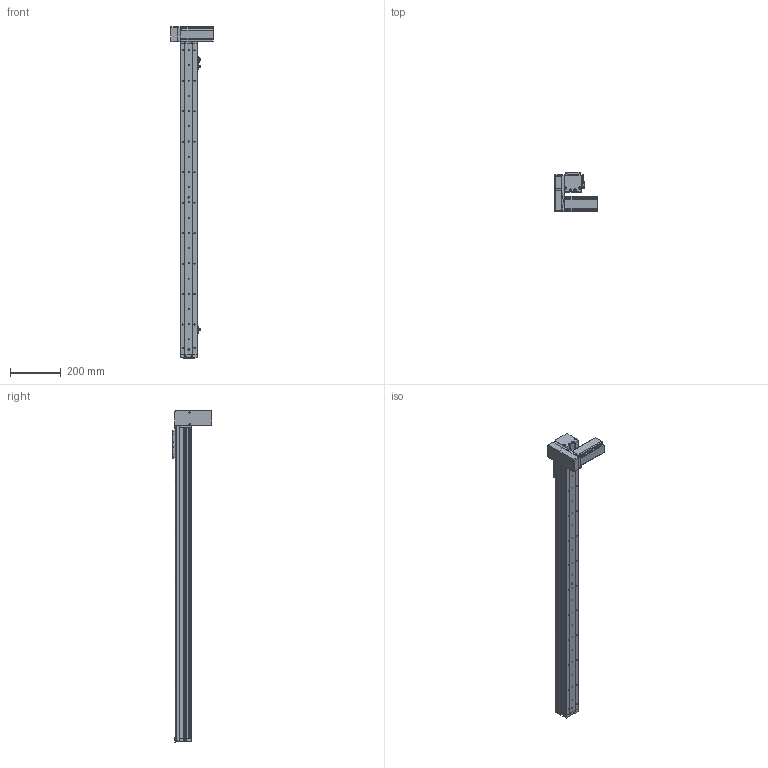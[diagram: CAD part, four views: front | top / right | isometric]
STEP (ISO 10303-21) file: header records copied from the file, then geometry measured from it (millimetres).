
FILE_DESCRIPTION (( 'STEP AP214' ), '1' );
FILE_NAME ('KSD68BS-S1050-MRD-CR.STEP', '2019-11-08T03:18:56', ( '微软用户' ), ( '微软中国' ), 'SwSTEP 2.0', 'SolidWorks 2014', '' );
FILE_SCHEMA (( 'AUTOMOTIVE_DESIGN' ));
Length unit declared in the file: millimetre
Products named in the file (14): 68宽单导轨全封闭同步带端板; 68遵裔啣揤啣1; 68单导轨全封闭同步带电机座右; 68单导轨全封闭同步带安装板; 悵誘欶奻狟殏; KSD68BS 1050行程盖板全封闭; 68宽马达安装板连板上折同步带; 感应片68宽全封闭; U倰嫖萇EEㄜSX672; 台达ECMA－C20604AS伺服电机（400W); KSD68BS 1050行程底板全封闭; KSD68BS-S1050-MRD-CR; 68宽单导轨全封闭丝杆传动安装板1防护罩; KSD68BS 1050行程侧板全封闭
Assembly tree (17 placements, depth 2):
  KSD68BS-S1050-MRD-CR
    KSD68BS 1050行程底板全封闭
    台达ECMA－C20604AS伺服电机（400W)
    U倰嫖萇EEㄜSX672  x3
    感应片68宽全封闭
    68宽马达安装板连板上折同步带
    悵誘欶奻狟殏
    68单导轨全封闭同步带安装板
    68单导轨全封闭同步带电机座右
    68宽单导轨全封闭同步带端板
    KSD68BS 1050行程侧板全封闭  x2
    68宽单导轨全封闭丝杆传动安装板1防护罩
    68遵裔啣揤啣1  x2
    KSD68BS 1050行程盖板全封闭
Bounding box: 167.2 x 155.5 x 1308.1 mm (x, y, z)
Volume: 2604040.3 mm3; surface area: 1004357 mm2
Topology: 18 solids, 18 shells, 1540 faces, 4393 edges, 2805 vertices
Faces by surface type: cylinder 737, plane 631, cone 172
Entity records: 49082 total; most frequent: CARTESIAN_POINT 8427, DIRECTION 7345, ORIENTED_EDGE 7022, EDGE_CURVE 3511, AXIS2_PLACEMENT_3D 2657, VERTEX_POINT 2303, LINE 2031, VECTOR 2031
